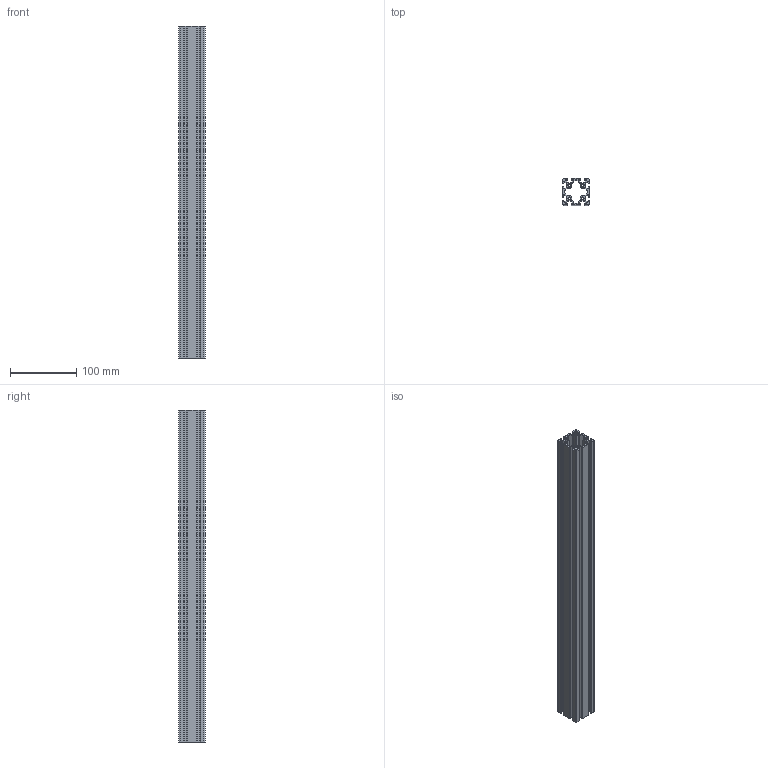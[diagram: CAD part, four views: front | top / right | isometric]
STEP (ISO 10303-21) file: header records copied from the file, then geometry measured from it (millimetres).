
FILE_DESCRIPTION (( 'STEP AP203' ), '1' );
FILE_NAME ('PP4070-500-Rollco.step', '2026-05-05T08:46:24', ( '' ), ( '' ), 'SwSTEP 2.0', 'SolidWorks 2014', '' );
FILE_SCHEMA (( 'CONFIG_CONTROL_DESIGN' ));
Length unit declared in the file: millimetre
Products named in the file (1): PP4070-500-Rollco
Bounding box: 40 x 40 x 500 mm (x, y, z)
Volume: 257077.2 mm3; surface area: 241476 mm2
Topology: 1 solids, 1 shells, 183 faces, 547 edges, 366 vertices
Faces by surface type: cylinder 93, plane 90
Entity records: 6316 total; most frequent: DIRECTION 1101, CARTESIAN_POINT 1097, ORIENTED_EDGE 1094, EDGE_CURVE 547, AXIS2_PLACEMENT_3D 370, VERTEX_POINT 366, VECTOR 361, LINE 361
